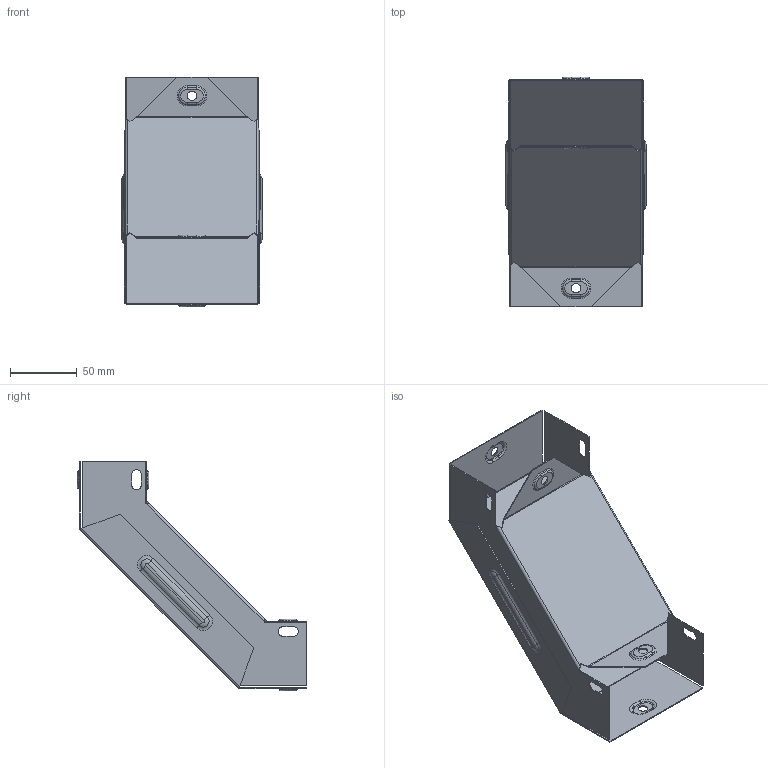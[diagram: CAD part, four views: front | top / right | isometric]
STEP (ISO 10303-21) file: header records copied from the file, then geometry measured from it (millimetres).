
FILE_DESCRIPTION (( 'STEP AP214' ), '1' );
FILE_NAME ('vo9050100_捘.STEP', '2019-06-10T08:51:59', ( '砐錪賧瘔蠈錪 Windows' ), ( '' ), 'SwSTEP 2.0', 'SolidWorks 2018', '' );
FILE_SCHEMA (( 'AUTOMOTIVE_DESIGN' ));
Length unit declared in the file: millimetre
Products named in the file (1): vo9050100_捘
Bounding box: 105.6 x 172.3 x 172.3 mm (x, y, z)
Volume: 58719.8 mm3; surface area: 148542.3 mm2
Topology: 2 solids, 2 shells, 262 faces, 606 edges, 364 vertices
Faces by surface type: cylinder 98, plane 92, torus 64, bspline 8
Entity records: 7621 total; most frequent: CARTESIAN_POINT 1481, DIRECTION 1360, ORIENTED_EDGE 1212, EDGE_CURVE 606, AXIS2_PLACEMENT_3D 531, VERTEX_POINT 364, LINE 298, VECTOR 298
